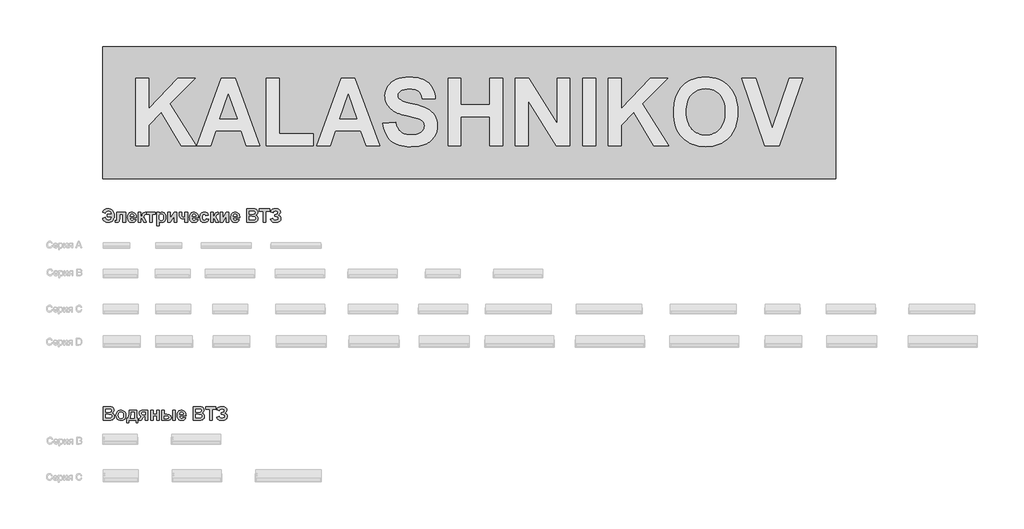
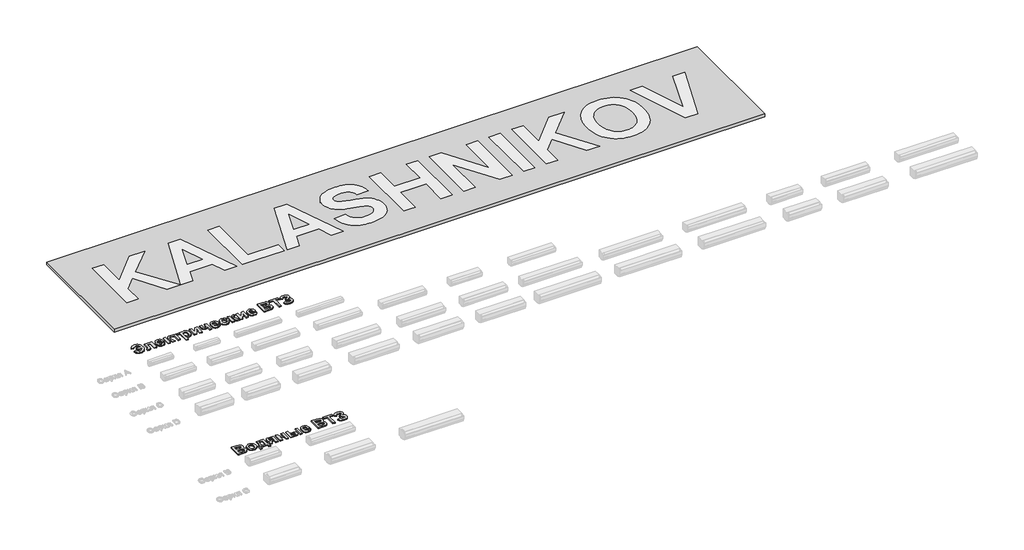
# One storey, part 7 of 8: 3 proxies.
"""IFC4 building model written with IfcOpenShell, lengths in millimetres."""

from ifc_helpers import new_model, si_unit, origin, origin_with_axes, place, context, project, spatial, polyline, outline, extrude, transform, mapped, element, save
from components import entourage_b6f5d68a

model = new_model("IFC4")

# Units and contexts
model_context = context("Model", 3, world=origin())
ifc_project = project(units=[si_unit("LENGTHUNIT", "METRE", prefix="MILLI")], contexts=[model_context])

# Site, building, storey
site = spatial("IfcSite", under=ifc_project)
building = spatial("IfcBuilding", under=site)
storey = spatial("IfcBuildingStorey", under=building, Name="Уровень 1", Elevation=0.0)

# Proxies
placement = place(None, origin())
element("IfcBuildingElementProxy", 1, Name="ИЗТТ_Текст1", ObjectType="ИЗТТ_Текст1", at=placement, inside=storey, context=model_context, shape_type="SweptSolid", body=[
    extrude(outline(polyline([(-15211.1669449, 16810.7073156), (-15075.1323582, 16810.7073156), (-15085.620888, 16851.5607085), (-15094.8600302, 16869.1501881), (-15106.762424, 16884.8481897), (-15121.1825709, 16897.7564195), (-15137.9749728, 16906.9765837), (-15157.1396296, 16912.5086822), (-15178.6765414, 16914.352715), (-15210.3445632, 16909.9118538), (-15236.5216056, 16896.5892701), (-15256.473851, 16875.9538152), (-15269.467482, 16849.5743404), (-15347.2015316, 16869.0078528), (-15339.1738209, 16894.115799), (-15327.4390665, 16916.6047757), (-15311.9972684, 16936.474783), (-15292.8484266, 16953.7258208), (-15270.2645597, 16967.6746798), (-15244.5176862, 16977.6381505), (-15215.6078061, 16983.6162329), (-15183.5349195, 16985.6089271), (-15142.1501415, 16981.9208614), (-15105.5478294, 16970.8566644), (-15073.7279833, 16952.4163361), (-15046.6906031, 16926.5998765), (-15025.1252243, 16894.8622685), (-15009.7213823, 16858.6584953), (-15000.4790771, 16817.9885568), (-14997.3983087, 16772.852453), (-15003.0917206, 16712.9071524), (-15010.2084853, 16686.3315712), (-15020.171956, 16662.0207027), (-15032.6247129, 16640.1421862), (-15047.2093362, 16620.8636612), (-15063.925826, 16604.1851275), (-15082.7741821, 16590.1065853), (-15103.7164486, 16578.925357), (-15126.7146694, 16570.9387654), (-15151.7688445, 16566.1468105), (-15178.8789738, 16564.5494922), (-15211.3994259, 16566.5738164), (-15240.6398401, 16572.646789), (-15266.6002166, 16582.76841), (-15289.2805552, 16596.9386795), (-15308.680856, 16615.1575973), (-15324.801119, 16637.4251636), (-15337.6413442, 16663.7413783), (-15347.2015316, 16694.1062414), (-15269.467482, 16720.0175912), (-15257.916182, 16682.6688096), (-15248.4872595, 16668.1695875), (-15236.6228218, 16656.4538111), (-15207.8900701, 16640.967731), (-15174.0205957, 16635.8057042), (-15155.9187091, 16637.3492514), (-15139.1642633, 16641.9798931), (-15123.7572583, 16649.6976291), (-15109.6976941, 16660.5024595), (-15097.4979777, 16674.698033), (-15087.6705163, 16692.5879982), (-15080.2153098, 16714.1723551), (-15075.1323582, 16739.4511036), (-15211.1669449, 16739.4511036), (-15211.1669449, 16810.7073156)])), origin_with_axes(), (0.0, 0.0, 1.0), 30.0),
    extrude(outline(polyline([(-14913.1864217, 16869.0078528), (-14654.0729233, 16869.0078528), (-14654.0729233, 16571.0273296), (-14731.8069729, 16571.0273296), (-14731.8069729, 16810.7073156), (-14835.4523722, 16810.7073156), (-14835.4523722, 16672.8508372), (-14838.3117302, 16628.1385763), (-14846.889804, 16599.0642199), (-14858.934533, 16581.4652513), (-14872.1938566, 16571.1791539), (-14890.2862542, 16566.2069076), (-14916.8302053, 16564.5494922), (-14965.0091214, 16569.306654), (-14965.0091214, 16624.2670562), (-14952.6607438, 16623.659759), (-14934.947907, 16622.8500293), (-14922.8652219, 16625.5322589), (-14916.5771648, 16633.5789476), (-14913.1864217, 16693.2965117), (-14913.1864217, 16869.0078528)])), origin_with_axes(), (0.0, 0.0, 1.0), 30.0),
    extrude(outline(polyline([(-14407.9150999, 16661.7170541), (-14330.1810503, 16648.7613791), (-14349.1084817, 16612.4880198), (-14361.760508, 16598.0425688), (-14376.5380747, 16586.0579369), (-14393.3715956, 16576.6479923), (-14412.1914847, 16569.9266033), (-14455.7903673, 16564.5494922), (-14490.9946305, 16567.7188247), (-14521.3025595, 16577.2268225), (-14546.7141543, 16593.0734854), (-14567.2294149, 16615.2588135), (-14579.7169648, 16636.8874525), (-14588.6366434, 16661.185669), (-14593.9884505, 16688.153463), (-14595.7723862, 16717.7908346), (-14593.4064573, 16752.7357312), (-14586.3086705, 16783.6825875), (-14574.479026, 16810.6314035), (-14557.9175235, 16833.5821792), (-14537.7375416, 16851.9149653), (-14515.0524585, 16865.0098125), (-14489.8622741, 16872.8667208), (-14462.1669886, 16875.4856902), (-14431.3909346, 16872.7971347), (-14404.0435798, 16864.7314679), (-14380.1249241, 16851.28869), (-14359.6349675, 16832.4688009), (-14343.3075276, 16808.0946722), (-14331.8764219, 16777.9891757), (-14325.3416503, 16742.1523112), (-14323.7032129, 16700.5840788), (-14518.0383367, 16700.5840788), (-14513.0534383, 16667.8406348), (-14499.7182026, 16643.2957038), (-14480.0569538, 16627.9614479), (-14456.094016, 16622.8500293), (-14439.7729021, 16625.1526981), (-14426.2352339, 16632.0607044), (-14415.5822278, 16644.0801294), (-14407.9150999, 16661.7170541)]), holes=[polyline([(-14401.4372624, 16745.928941), (-14406.1691202, 16776.6607129), (-14418.7452344, 16799.0168434), (-14437.0147603, 16812.6430757), (-14458.8268536, 16817.1851531), (-14481.8535415, 16812.4026872), (-14500.5279323, 16798.0552894), (-14512.7750937, 16775.4081623), (-14516.7225259, 16745.928941), (-14401.4372624, 16745.928941)])]), origin_with_axes(), (0.0, 0.0, 1.0), 30.0),
    extrude(outline(polyline([(-14265.4026757, 16869.0078528), (-14187.6686262, 16869.0078528), (-14187.6686262, 16745.928941), (-14171.2589481, 16750.0408496), (-14160.4920738, 16757.923062), (-14151.6989155, 16773.4724023), (-14141.2103857, 16800.5856946), (-14125.7243055, 16836.5427533), (-14108.8211984, 16856.7606913), (-14088.4767401, 16865.9460624), (-14062.6666065, 16869.0078528), (-14032.2005272, 16867.6920421), (-14031.8968785, 16817.1851531), (-14056.8466744, 16815.66691), (-14070.7639033, 16811.1121805), (-14079.6203217, 16798.5613704), (-14089.1852536, 16773.4597503), (-14105.5063675, 16739.2739752), (-14115.8873551, 16728.2730384), (-14127.7486297, 16721.3334019), (-14110.086401, 16713.5081237), (-14093.8411993, 16700.2551261), (-14079.0130244, 16681.5744093), (-14065.6018766, 16657.4659732), (-14062.5653903, 16651.6966492), (-14019.2448523, 16571.0273296), (-14106.5944418, 16571.0273296), (-14143.4371423, 16654.4294869), (-14154.0142363, 16675.2041141), (-14163.0730871, 16686.9198904), (-14173.3718365, 16692.3096536), (-14187.6686262, 16694.1062414), (-14187.6686262, 16571.0273296), (-14265.4026757, 16571.0273296), (-14265.4026757, 16869.0078528)])), origin_with_axes(), (0.0, 0.0, 1.0), 30.0),
    extrude(outline(polyline([(-14012.7670148, 16869.0078528), (-13753.6535164, 16869.0078528), (-13753.6535164, 16810.7073156), (-13844.3432408, 16810.7073156), (-13844.3432408, 16571.0273296), (-13922.0772904, 16571.0273296), (-13922.0772904, 16810.7073156), (-14012.7670148, 16810.7073156), (-14012.7670148, 16869.0078528)])), origin_with_axes(), (0.0, 0.0, 1.0), 30.0),
    extrude(outline(polyline([(-13714.7864916, 16869.0078528), (-13637.0524421, 16869.0078528), (-13637.0524421, 16826.0921796), (-13620.9843687, 16846.0570771), (-13600.1085254, 16861.8215019), (-13575.5382903, 16872.0696431), (-13548.3870419, 16875.4856902), (-13524.5727654, 16872.945796), (-13502.6246628, 16865.3261131), (-13482.5427341, 16852.6266417), (-13464.3269792, 16834.8473818), (-13449.2046448, 16812.5386965), (-13438.4029773, 16786.2509488), (-13431.9219769, 16755.9841389), (-13429.7616434, 16721.7382668), (-13431.991563, 16686.5213516), (-13438.6813219, 16655.4669531), (-13449.8309201, 16628.5750712), (-13465.4403575, 16605.845706), (-13484.2254536, 16587.7786124), (-13504.9020275, 16574.8735456), (-13527.4700794, 16567.1305055), (-13551.9296092, 16564.5494922), (-13574.9816011, 16566.9533772), (-13595.7562283, 16574.1650321), (-13615.8982542, 16587.2219233), (-13637.0524421, 16607.1615167), (-13637.0524421, 16460.9040928), (-13714.7864916, 16460.9040928), (-13714.7864916, 16869.0078528)]), holes=[polyline([(-13637.0524421, 16725.1796179), (-13632.181412, 16679.6829314), (-13626.0926243, 16662.0586588), (-13617.5683216, 16647.8504333), (-13595.9460087, 16629.1001303), (-13583.5312079, 16624.4125546), (-13570.0473109, 16622.8500293), (-13545.4644238, 16628.5813972), (-13525.360354, 16645.7755009), (-13517.5445648, 16659.0759436), (-13511.9618582, 16676.0517998), (-13507.4956929, 16721.0297533), (-13512.0883785, 16763.5405616), (-13517.8292354, 16780.089412), (-13525.8664351, 16793.5005599), (-13546.4512819, 16811.2640048), (-13571.4643378, 16817.1851531), (-13597.3124275, 16811.377873), (-13618.3780513, 16793.9560328), (-13626.5480973, 16780.9465868), (-13632.3838444, 16765.147369), (-13637.0524421, 16725.1796179)])]), origin_with_axes(), (0.0, 0.0, 1.0), 30.0),
    extrude(outline(polyline([(-13371.4611063, 16869.0078528), (-13293.7270567, 16869.0078528), (-13293.7270567, 16685.7052959), (-13183.6038199, 16869.0078528), (-13105.8697704, 16869.0078528), (-13105.8697704, 16571.0273296), (-13183.6038199, 16571.0273296), (-13183.6038199, 16754.4311027), (-13293.7270567, 16571.0273296), (-13371.4611063, 16571.0273296), (-13371.4611063, 16869.0078528)])), origin_with_axes(), (0.0, 0.0, 1.0), 30.0),
    extrude(outline(polyline([(-13028.1357209, 16869.0078528), (-12950.4016714, 16869.0078528), (-12950.4016714, 16794.7151544), (-12946.403631, 16756.7590755), (-12940.1535301, 16745.1951235), (-12929.3993077, 16735.4024552), (-12914.6850011, 16728.7221853), (-12896.5546475, 16726.4954287), (-12876.0583649, 16728.9752258), (-12853.2341095, 16736.4146173), (-12853.2341095, 16869.0078528), (-12775.5000599, 16869.0078528), (-12775.5000599, 16571.0273296), (-12853.2341095, 16571.0273296), (-12853.2341095, 16686.8186742), (-12891.4938369, 16677.7092153), (-12919.429511, 16674.672729), (-12951.8186983, 16678.6201612), (-12980.7665344, 16690.4624578), (-13003.7046581, 16708.4789432), (-13018.0647079, 16730.9489419), (-13025.6179676, 16759.7196497), (-13028.1357209, 16796.6382624), (-13028.1357209, 16869.0078528)])), origin_with_axes(), (0.0, 0.0, 1.0), 30.0),
    extrude(outline(polyline([(-12529.3422364, 16661.7170541), (-12451.6081869, 16648.7613791), (-12470.5356183, 16612.4880198), (-12483.1876445, 16598.0425688), (-12497.9652113, 16586.0579369), (-12514.7987322, 16576.6479923), (-12533.6186213, 16569.9266033), (-12577.2175039, 16564.5494922), (-12612.4217671, 16567.7188247), (-12642.7296961, 16577.2268225), (-12668.1412909, 16593.0734854), (-12688.6565515, 16615.2588135), (-12701.1441014, 16636.8874525), (-12710.06378, 16661.185669), (-12715.4155871, 16688.153463), (-12717.1995228, 16717.7908346), (-12714.8335939, 16752.7357312), (-12707.7358071, 16783.6825875), (-12695.9061625, 16810.6314035), (-12679.3446601, 16833.5821792), (-12659.1646782, 16851.9149653), (-12636.4795951, 16865.0098125), (-12611.2894107, 16872.8667208), (-12583.5941252, 16875.4856902), (-12552.8180712, 16872.7971347), (-12525.4707164, 16864.7314679), (-12501.5520607, 16851.28869), (-12481.0621041, 16832.4688009), (-12464.7346642, 16808.0946722), (-12453.3035585, 16777.9891757), (-12446.7687869, 16742.1523112), (-12445.1303495, 16700.5840788), (-12639.4654733, 16700.5840788), (-12634.4805749, 16667.8406348), (-12621.1453392, 16643.2957038), (-12601.4840903, 16627.9614479), (-12577.5211526, 16622.8500293), (-12561.2000386, 16625.1526981), (-12547.6623705, 16632.0607044), (-12537.0093644, 16644.0801294), (-12529.3422364, 16661.7170541)]), holes=[polyline([(-12522.864399, 16745.928941), (-12527.5962568, 16776.6607129), (-12540.172371, 16799.0168434), (-12558.4418969, 16812.6430757), (-12580.2539902, 16817.1851531), (-12603.2806781, 16812.4026872), (-12621.9550689, 16798.0552894), (-12634.2022303, 16775.4081623), (-12638.1496625, 16745.928941), (-12522.864399, 16745.928941)])]), origin_with_axes(), (0.0, 0.0, 1.0), 30.0),
    extrude(outline(polyline([(-12140.6719888, 16784.7959658), (-12218.4060384, 16771.8402909), (-12224.3651427, 16791.615408), (-12234.9548888, 16805.7983294), (-12249.7957156, 16814.3384472), (-12268.5080625, 16817.1851531), (-12293.1542097, 16811.845998), (-12312.2334653, 16795.8285327), (-12319.3628821, 16783.3599608), (-12324.4553227, 16767.3108655), (-12328.5292752, 16724.4711045), (-12324.2908464, 16676.9753978), (-12318.9928104, 16659.3574512), (-12311.57556, 16645.826109), (-12291.7245307, 16628.5940492), (-12266.0788734, 16622.8500293), (-12246.6580131, 16626.1269041), (-12231.1086728, 16635.9575285), (-12219.5067647, 16653.8095376), (-12211.9282009, 16681.1505664), (-12134.1941514, 16668.1948915), (-12141.3583613, 16644.1085965), (-12151.2111267, 16623.16633), (-12163.7524478, 16605.368092), (-12178.9823244, 16590.7138825), (-12196.9640168, 16579.2669617), (-12217.760785, 16571.0905898), (-12241.3726291, 16566.1847666), (-12267.799549, 16564.5494922), (-12297.8259704, 16567.1241795), (-12324.6451031, 16574.8482416), (-12348.2569472, 16587.7216783), (-12368.6615026, 16605.7444898), (-12385.1122998, 16628.3157047), (-12396.8628692, 16654.8343518), (-12403.9132108, 16685.3004311), (-12406.2633247, 16719.7139426), (-12403.9290259, 16754.5165039), (-12396.9261293, 16785.2387867), (-12385.2546351, 16811.8807911), (-12368.9145431, 16834.442517), (-12348.5890629, 16852.3989053), (-12324.9614038, 16865.2248969), (-12298.0315658, 16872.9204919), (-12267.799549, 16875.4856902), (-12221.0123558, 16869.8808426), (-12201.6231255, 16862.874783), (-12184.9034728, 16853.0662997), (-12170.600357, 16840.3921323), (-12158.4607378, 16824.7890209), (-12140.6719888, 16784.7959658)])), origin_with_axes(), (0.0, 0.0, 1.0), 30.0),
    extrude(outline(polyline([(-12075.8936142, 16869.0078528), (-11998.1595647, 16869.0078528), (-11998.1595647, 16745.928941), (-11981.7498866, 16750.0408496), (-11970.9830123, 16757.923062), (-11962.189854, 16773.4724023), (-11951.7013242, 16800.5856946), (-11936.215244, 16836.5427533), (-11919.3121369, 16856.7606913), (-11898.9676786, 16865.9460624), (-11873.157545, 16869.0078528), (-11842.6914657, 16867.6920421), (-11842.3878171, 16817.1851531), (-11867.3376129, 16815.66691), (-11881.2548418, 16811.1121805), (-11890.1112602, 16798.5613704), (-11899.6761921, 16773.4597503), (-11915.997306, 16739.2739752), (-11926.3782936, 16728.2730384), (-11938.2395682, 16721.3334019), (-11920.5773395, 16713.5081237), (-11904.3321378, 16700.2551261), (-11889.503963, 16681.5744093), (-11876.0928151, 16657.4659732), (-11873.0563288, 16651.6966492), (-11829.7357908, 16571.0273296), (-11917.0853803, 16571.0273296), (-11953.9280808, 16654.4294869), (-11964.5051748, 16675.2041141), (-11973.5640256, 16686.9198904), (-11983.862775, 16692.3096536), (-11998.1595647, 16694.1062414), (-11998.1595647, 16571.0273296), (-12075.8936142, 16571.0273296), (-12075.8936142, 16869.0078528)])), origin_with_axes(), (0.0, 0.0, 1.0), 30.0),
    extrude(outline(polyline([(-11790.868766, 16869.0078528), (-11713.1347165, 16869.0078528), (-11713.1347165, 16685.7052959), (-11603.0114797, 16869.0078528), (-11525.2774301, 16869.0078528), (-11525.2774301, 16571.0273296), (-11603.0114797, 16571.0273296), (-11603.0114797, 16754.4311027), (-11713.1347165, 16571.0273296), (-11790.868766, 16571.0273296), (-11790.868766, 16869.0078528)])), origin_with_axes(), (0.0, 0.0, 1.0), 30.0),
    extrude(outline(polyline([(-11279.1196067, 16661.7170541), (-11201.3855571, 16648.7613791), (-11220.3129885, 16612.4880198), (-11232.9650148, 16598.0425688), (-11247.7425815, 16586.0579369), (-11264.5761024, 16576.6479923), (-11283.3959915, 16569.9266033), (-11326.9948741, 16564.5494922), (-11362.1991373, 16567.7188247), (-11392.5070663, 16577.2268225), (-11417.9186611, 16593.0734854), (-11438.4339217, 16615.2588135), (-11450.9214716, 16636.8874525), (-11459.8411502, 16661.185669), (-11465.1929573, 16688.153463), (-11466.976893, 16717.7908346), (-11464.6109641, 16752.7357312), (-11457.5131773, 16783.6825875), (-11445.6835328, 16810.6314035), (-11429.1220303, 16833.5821792), (-11408.9420484, 16851.9149653), (-11386.2569653, 16865.0098125), (-11361.0667809, 16872.8667208), (-11333.3714954, 16875.4856902), (-11302.5954414, 16872.7971347), (-11275.2480866, 16864.7314679), (-11251.3294309, 16851.28869), (-11230.8394743, 16832.4688009), (-11214.5120344, 16808.0946722), (-11203.0809287, 16777.9891757), (-11196.5461571, 16742.1523112), (-11194.9077197, 16700.5840788), (-11389.2428435, 16700.5840788), (-11384.2579451, 16667.8406348), (-11370.9227094, 16643.2957038), (-11351.2614606, 16627.9614479), (-11327.2985228, 16622.8500293), (-11310.9774089, 16625.1526981), (-11297.4397407, 16632.0607044), (-11286.7867346, 16644.0801294), (-11279.1196067, 16661.7170541)]), holes=[polyline([(-11272.6417692, 16745.928941), (-11277.373627, 16776.6607129), (-11289.9497412, 16799.0168434), (-11308.2192671, 16812.6430757), (-11330.0313604, 16817.1851531), (-11353.0580483, 16812.4026872), (-11371.7324391, 16798.0552894), (-11383.9796005, 16775.4081623), (-11387.9270327, 16745.928941), (-11272.6417692, 16745.928941)])]), origin_with_axes(), (0.0, 0.0, 1.0), 30.0),
    extrude(outline(polyline([(-10981.1390835, 16979.1310896), (-10813.6262554, 16979.1310896), (-10739.4853814, 16975.0824412), (-10716.3321733, 16968.8196882), (-10695.7599785, 16958.128726), (-10678.0850978, 16943.0981187), (-10663.6238317, 16923.8164307), (-10653.9829877, 16901.1060435), (-10650.769373, 16875.7893389), (-10654.602937, 16848.2079216), (-10666.1036289, 16822.9544771), (-10684.1833745, 16801.8762013), (-10707.7540994, 16786.82029), (-10677.9459255, 16772.1945476), (-10655.9313998, 16749.9775895), (-10642.3431235, 16721.6623546), (-10637.8136981, 16688.7417822), (-10641.0652689, 16661.4007534), (-10650.8199811, 16634.8441502), (-10666.2048451, 16611.3113813), (-10686.346871, 16593.0418554), (-10711.4864472, 16580.4024811), (-10741.8639623, 16573.7601673), (-10841.6631457, 16571.0273296), (-10981.1390835, 16571.0273296), (-10981.1390835, 16979.1310896)]), holes=[polyline([(-10903.405034, 16907.8748775), (-10903.405034, 16817.1851531), (-10844.0923347, 16817.1851531), (-10778.301798, 16818.5009638), (-10757.590431, 16823.2328217), (-10741.8133542, 16832.5700171), (-10731.8309055, 16846.0570771), (-10728.5034226, 16863.2385288), (-10731.3754325, 16879.6735109), (-10739.9914624, 16892.7430541), (-10754.2502961, 16901.8904691), (-10774.0507172, 16906.5590668), (-10851.3799019, 16907.8748775), (-10903.405034, 16907.8748775)]), polyline([(-10903.405034, 16745.928941), (-10903.405034, 16642.2835417), (-10821.2174712, 16642.2835417), (-10760.2853126, 16644.7127307), (-10742.2941312, 16650.14045), (-10727.9973415, 16660.1482028), (-10718.6601461, 16674.5335567), (-10715.5477476, 16693.0940793), (-10717.9516326, 16709.1874567), (-10725.1632876, 16722.6492127), (-10736.904368, 16733.1503945), (-10752.8965292, 16740.3620495), (-10781.641933, 16744.5372182), (-10831.6427409, 16745.928941), (-10903.405034, 16745.928941)])]), origin_with_axes(), (0.0, 0.0, 1.0), 30.0),
    extrude(outline(polyline([(-10482.3455991, 16571.0273296), (-10482.3455991, 16907.8748775), (-10598.9466734, 16907.8748775), (-10598.9466734, 16979.1310896), (-10288.0104753, 16979.1310896), (-10288.0104753, 16907.8748775), (-10404.6115496, 16907.8748775), (-10404.6115496, 16571.0273296), (-10482.3455991, 16571.0273296)])), origin_with_axes(), (0.0, 0.0, 1.0), 30.0),
    extrude(outline(polyline([(-10184.3650759, 16862.5300153), (-10262.0991254, 16881.9635277), (-10253.8136297, 16906.2554182), (-10242.4188985, 16927.3083899), (-10227.9149319, 16945.1224429), (-10210.3017298, 16959.6975772), (-10189.5792922, 16971.0337928), (-10165.7476192, 16979.1310896), (-10138.8067107, 16983.9894677), (-10108.7565668, 16985.6089271), (-10073.6060748, 16983.651026), (-10043.0545943, 16977.7773228), (-10017.1021254, 16967.9878175), (-9995.748668, 16954.28251), (-9979.0764604, 16937.932929), (-9967.1677406, 16920.2106032), (-9960.0225088, 16901.1155325), (-9957.6407648, 16880.647717), (-9961.7653254, 16853.1042557), (-9974.1390071, 16828.3695443), (-9994.7618099, 16806.4435828), (-10023.6337339, 16787.3263711), (-9989.0937022, 16770.46122), (-9964.4222509, 16747.8014409), (-9949.6193801, 16719.2964257), (-9944.6850899, 16684.8955662), (-9947.2249842, 16659.2182789), (-9954.844667, 16636.1346569), (-9967.5441384, 16615.6447003), (-9985.3233983, 16597.7484091), (-10008.1634688, 16583.223883), (-10036.0453717, 16572.8492214), (-10068.9691071, 16566.6244245), (-10106.934675, 16564.5494922), (-10165.9816817, 16570.0151675), (-10190.2957132, 16576.8472617), (-10211.1367635, 16586.4121936), (-10229.0551958, 16599.7221252), (-10244.6013731, 16617.7892188), (-10257.7752954, 16640.6134742), (-10268.5769629, 16668.1948915), (-10190.8429134, 16694.1062414), (-10175.8882183, 16663.9185066), (-10156.7330505, 16646.6358387), (-10132.9978492, 16638.5132379), (-10104.3030536, 16635.8057042), (-10067.3717888, 16639.9808729), (-10042.0044761, 16652.5063789), (-10027.3154736, 16670.4216482), (-10022.4191394, 16690.7661064), (-10027.998683, 16713.160193), (-10044.7373138, 16730.7465095), (-10072.6856399, 16742.1333332), (-10111.8942693, 16745.928941), (-10132.5423762, 16745.928941), (-10132.5423762, 16804.2294782), (-10122.0158904, 16804.2294782), (-10084.8695412, 16808.2907786), (-10057.6423806, 16820.4746799), (-10040.9417059, 16839.3894592), (-10035.3748143, 16863.6433936), (-10040.0687161, 16883.3299465), (-10054.1504213, 16899.6763645), (-10076.9873288, 16910.6836274), (-10107.9468371, 16914.352715), (-10135.1170636, 16911.1137963), (-10156.9101789, 16901.3970401), (-10173.326183, 16885.2024464), (-10184.3650759, 16862.5300153)])), origin_with_axes(), (0.0, 0.0, 1.0), 30.0),
])
element("IfcBuildingElementProxy", 2, Name="ИЗТТ_Текст1", ObjectType="ИЗТТ_Текст1", at=placement, inside=storey, context=model_context, shape_type="SweptSolid", body=[
    extrude(outline(polyline([(-15334.2458566, 10979.1310896), (-15166.7330286, 10979.1310896), (-15092.5921545, 10975.0824412), (-15069.4389464, 10968.8196882), (-15048.8667517, 10958.128726), (-15031.1918709, 10943.0981187), (-15016.7306049, 10923.8164307), (-15007.0897609, 10901.1060435), (-15003.8761462, 10875.7893389), (-15007.7097102, 10848.2079216), (-15019.210402, 10822.9544771), (-15037.2901476, 10801.8762013), (-15060.8608726, 10786.82029), (-15031.0526987, 10772.1945476), (-15009.0381729, 10749.9775895), (-14995.4498967, 10721.6623546), (-14990.9204713, 10688.7417822), (-14994.172042, 10661.4007534), (-15003.9267543, 10634.8441502), (-15019.3116183, 10611.3113813), (-15039.4536441, 10593.0418554), (-15064.5932203, 10580.4024811), (-15094.9707355, 10573.7601673), (-15194.7699188, 10571.0273296), (-15334.2458566, 10571.0273296), (-15334.2458566, 10979.1310896)]), holes=[polyline([(-15256.5118071, 10907.8748775), (-15256.5118071, 10817.1851531), (-15197.1991079, 10817.1851531), (-15131.4085712, 10818.5009638), (-15110.6972041, 10823.2328217), (-15094.9201274, 10832.5700171), (-15084.9376786, 10846.0570771), (-15081.6101957, 10863.2385288), (-15084.4822057, 10879.6735109), (-15093.0982356, 10892.7430541), (-15107.3570692, 10901.8904691), (-15127.1574903, 10906.5590668), (-15204.486675, 10907.8748775), (-15256.5118071, 10907.8748775)]), polyline([(-15256.5118071, 10745.928941), (-15256.5118071, 10642.2835417), (-15174.3242444, 10642.2835417), (-15113.3920857, 10644.7127307), (-15095.4009044, 10650.14045), (-15081.1041147, 10660.1482028), (-15071.7669193, 10674.5335567), (-15068.6545208, 10693.0940793), (-15071.0584058, 10709.1874567), (-15078.2700608, 10722.6492127), (-15090.0111412, 10733.1503945), (-15106.0033024, 10740.3620495), (-15134.7487061, 10744.5372182), (-15184.749514, 10745.928941), (-15256.5118071, 10745.928941)])]), origin_with_axes(), (0.0, 0.0, 1.0), 30.0),
    extrude(outline(polyline([(-14945.575609, 10724.268672), (-14940.7804911, 10762.8193961), (-14926.3951372, 10800.1302217), (-14903.2292771, 10832.4814529), (-14872.0926404, 10856.1533941), (-14834.9209871, 10870.6526162), (-14793.6500774, 10875.4856902), (-14761.6625919, 10872.7465266), (-14732.7052667, 10864.5290355), (-14706.7781019, 10850.833217), (-14683.8810973, 10831.6590712), (-14665.1719134, 10808.2971046), (-14651.8082106, 10782.0378241), (-14643.789989, 10752.8812295), (-14641.1172484, 10720.8273209), (-14643.818456, 10688.5172088), (-14651.9220789, 10659.0980846), (-14665.4281169, 10632.5699485), (-14684.3365702, 10608.9328004), (-14707.337954, 10589.515103), (-14733.1227836, 10575.6453192), (-14761.691059, 10567.3234489), (-14793.0427801, 10564.5494922), (-14832.6815785, 10569.1674818), (-14870.4225729, 10583.0214505), (-14902.8117602, 10605.8077499), (-14926.3951372, 10637.2227312), (-14940.7804911, 10676.8488775), (-14945.575609, 10724.268672)]), holes=[polyline([(-14867.8415595, 10720.0175912), (-14862.4644484, 10678.4556848), (-14855.7430594, 10661.8024552), (-14846.3331148, 10647.9010414), (-14834.9494542, 10636.9412236), (-14822.3069169, 10629.1127823), (-14808.405503, 10624.4157176), (-14793.2452125, 10622.8500293), (-14778.091248, 10624.4157176), (-14764.2088122, 10629.1127823), (-14751.597905, 10636.9412236), (-14740.2585264, 10647.9010414), (-14730.892864, 10661.8404113), (-14724.2031051, 10678.6075092), (-14718.8512979, 10720.6248885), (-14724.2031051, 10761.7313219), (-14730.892864, 10778.2706832), (-14740.2585264, 10792.1341411), (-14751.597905, 10803.0939588), (-14764.2088122, 10810.9224001), (-14778.091248, 10815.6194649), (-14793.2452125, 10817.1851531), (-14808.405503, 10815.6194649), (-14822.3069169, 10810.9224001), (-14834.9494542, 10803.0939588), (-14846.3331148, 10792.1341411), (-14855.7430594, 10778.2327272), (-14862.4644484, 10761.5794976), (-14867.8415595, 10720.0175912)])]), origin_with_axes(), (0.0, 0.0, 1.0), 30.0),
    extrude(outline(polyline([(-14336.6588878, 10571.0273296), (-14563.3831989, 10571.0273296), (-14563.3831989, 10493.2932801), (-14621.683736, 10493.2932801), (-14621.683736, 10629.3278668), (-14589.2945487, 10629.3278668), (-14572.2775734, 10658.8703481), (-14558.4742127, 10701.3432004), (-14548.7448045, 10767.7283823), (-14543.9496865, 10869.0078528), (-14310.747538, 10869.0078528), (-14310.747538, 10629.3278668), (-14278.3583507, 10629.3278668), (-14278.3583507, 10493.2932801), (-14336.6588878, 10493.2932801), (-14336.6588878, 10571.0273296)]), holes=[polyline([(-14388.4815875, 10629.3278668), (-14388.4815875, 10810.7073156), (-14479.1713119, 10810.7073156), (-14482.6759232, 10749.5727246), (-14489.2423248, 10698.9646195), (-14498.8705169, 10658.8830002), (-14511.5604992, 10629.3278668), (-14388.4815875, 10629.3278668)])]), origin_with_axes(), (0.0, 0.0, 1.0), 30.0),
    extrude(outline(polyline([(-13973.89999, 10869.0078528), (-13973.89999, 10571.0273296), (-14051.6340396, 10571.0273296), (-14051.6340396, 10687.6284039), (-14058.9216067, 10687.6284039), (-14080.8602203, 10686.0722047), (-14096.0679559, 10681.403607), (-14108.5681579, 10671.7248069), (-14122.3841706, 10655.1380004), (-14127.1413325, 10649.5711088), (-14178.7615997, 10571.0273296), (-14271.8805132, 10571.0273296), (-14215.3006516, 10652.5063789), (-14193.1089975, 10680.5685732), (-14173.0934919, 10693.4989441), (-14202.5094531, 10701.0268997), (-14225.7765294, 10719.5621183), (-14240.9210049, 10746.9284511), (-14245.9691634, 10780.9497498), (-14242.5657683, 10808.8095117), (-14232.3555831, 10832.2663684), (-14216.5025941, 10850.1436816), (-14196.1707879, 10861.2648127), (-14168.0832895, 10867.0720928), (-14128.9632242, 10869.0078528), (-13973.89999, 10869.0078528)]), holes=[polyline([(-14051.6340396, 10817.1851531), (-14109.9345767, 10817.1851531), (-14137.3388656, 10814.9457445), (-14155.1782227, 10808.2275185), (-14164.9708911, 10796.2966577), (-14168.2351138, 10778.4193446), (-14164.5407222, 10760.5799875), (-14153.4575471, 10748.5605625), (-14133.9481226, 10741.7284683), (-14104.9749824, 10739.4511036), (-14051.6340396, 10739.4511036), (-14051.6340396, 10817.1851531)])]), origin_with_axes(), (0.0, 0.0, 1.0), 30.0),
    extrude(outline(polyline([(-13896.1659405, 10869.0078528), (-13818.431891, 10869.0078528), (-13818.431891, 10758.884616), (-13708.3086542, 10758.884616), (-13708.3086542, 10869.0078528), (-13630.5746047, 10869.0078528), (-13630.5746047, 10571.0273296), (-13708.3086542, 10571.0273296), (-13708.3086542, 10700.5840788), (-13818.431891, 10700.5840788), (-13818.431891, 10571.0273296), (-13896.1659405, 10571.0273296), (-13896.1659405, 10869.0078528)])), origin_with_axes(), (0.0, 0.0, 1.0), 30.0),
    extrude(outline(polyline([(-13228.9486821, 10869.0078528), (-13151.2146326, 10869.0078528), (-13151.2146326, 10571.0273296), (-13228.9486821, 10571.0273296), (-13228.9486821, 10869.0078528)])), origin_with_axes(), (0.0, 0.0, 1.0), 30.0),
    extrude(outline(polyline([(-13552.8405551, 10869.0078528), (-13475.1065056, 10869.0078528), (-13475.1065056, 10745.928941), (-13398.9919155, 10745.928941), (-13359.4669853, 10744.2715256), (-13330.5697573, 10739.2992793), (-13308.79562, 10728.7727934), (-13290.6399623, 10710.4526593), (-13278.3801488, 10686.249333), (-13274.2935444, 10658.0732705), (-13276.0932951, 10637.7129972), (-13281.4925473, 10620.0539315), (-13290.491301, 10605.0960734), (-13303.0895562, 10592.8394229), (-13319.2873128, 10583.2966321), (-13339.084571, 10576.480353), (-13389.4775917, 10571.0273296), (-13552.8405551, 10571.0273296), (-13552.8405551, 10869.0078528)]), holes=[polyline([(-13475.1065056, 10622.8500293), (-13404.4575908, 10622.8500293), (-13380.6970854, 10624.9629177), (-13364.4771877, 10631.3015829), (-13355.1399923, 10642.3974099), (-13352.0275939, 10658.781784), (-13356.0509382, 10675.8493674), (-13368.1209713, 10686.5656337), (-13390.6162741, 10692.2210894), (-13425.9154274, 10694.1062414), (-13475.1065056, 10694.1062414), (-13475.1065056, 10622.8500293)])]), origin_with_axes(), (0.0, 0.0, 1.0), 30.0),
    extrude(outline(polyline([(-12905.0568091, 10661.7170541), (-12827.3227596, 10648.7613791), (-12846.2501909, 10612.4880198), (-12858.9022172, 10598.0425688), (-12873.6797839, 10586.0579369), (-12890.5133049, 10576.6479923), (-12909.333194, 10569.9266033), (-12952.9320766, 10564.5494922), (-12988.1363398, 10567.7188247), (-13018.4442687, 10577.2268225), (-13043.8558635, 10593.0734854), (-13064.3711242, 10615.2588135), (-13076.8586741, 10636.8874525), (-13085.7783526, 10661.185669), (-13091.1301598, 10688.153463), (-13092.9140955, 10717.7908346), (-13090.5481666, 10752.7357312), (-13083.4503798, 10783.6825875), (-13071.6207352, 10810.6314035), (-13055.0592328, 10833.5821792), (-13034.8792509, 10851.9149653), (-13012.1941677, 10865.0098125), (-12987.0039834, 10872.8667208), (-12959.3086979, 10875.4856902), (-12928.5326439, 10872.7971347), (-12901.1852891, 10864.7314679), (-12877.2666334, 10851.28869), (-12856.7766768, 10832.4688009), (-12840.4492369, 10808.0946722), (-12829.0181311, 10777.9891757), (-12822.4833596, 10742.1523112), (-12820.8449222, 10700.5840788), (-13015.180046, 10700.5840788), (-13010.1951476, 10667.8406348), (-12996.8599119, 10643.2957038), (-12977.198663, 10627.9614479), (-12953.2357252, 10622.8500293), (-12936.9146113, 10625.1526981), (-12923.3769432, 10632.0607044), (-12912.7239371, 10644.0801294), (-12905.0568091, 10661.7170541)]), holes=[polyline([(-12898.5789717, 10745.928941), (-12903.3108295, 10776.6607129), (-12915.8869436, 10799.0168434), (-12934.1564696, 10812.6430757), (-12955.9685629, 10817.1851531), (-12978.9952508, 10812.4026872), (-12997.6696416, 10798.0552894), (-13009.916803, 10775.4081623), (-13013.8642352, 10745.928941), (-12898.5789717, 10745.928941)])]), origin_with_axes(), (0.0, 0.0, 1.0), 30.0),
    extrude(outline(polyline([(-12607.076286, 10979.1310896), (-12439.5634579, 10979.1310896), (-12365.4225838, 10975.0824412), (-12342.2693757, 10968.8196882), (-12321.697181, 10958.128726), (-12304.0223003, 10943.0981187), (-12289.5610342, 10923.8164307), (-12279.9201902, 10901.1060435), (-12276.7065755, 10875.7893389), (-12280.5401395, 10848.2079216), (-12292.0408314, 10822.9544771), (-12310.1205769, 10801.8762013), (-12333.6913019, 10786.82029), (-12303.883128, 10772.1945476), (-12281.8686022, 10749.9775895), (-12268.280326, 10721.6623546), (-12263.7509006, 10688.7417822), (-12267.0024713, 10661.4007534), (-12276.7571836, 10634.8441502), (-12292.1420476, 10611.3113813), (-12312.2840734, 10593.0418554), (-12337.4236497, 10580.4024811), (-12367.8011648, 10573.7601673), (-12467.6003482, 10571.0273296), (-12607.076286, 10571.0273296), (-12607.076286, 10979.1310896)]), holes=[polyline([(-12529.3422364, 10745.928941), (-12529.3422364, 10642.2835417), (-12447.1546737, 10642.2835417), (-12386.2225151, 10644.7127307), (-12368.2313337, 10650.14045), (-12353.934544, 10660.1482028), (-12344.5973486, 10674.5335567), (-12341.4849501, 10693.0940793), (-12343.8888351, 10709.1874567), (-12351.1004901, 10722.6492127), (-12362.8415705, 10733.1503945), (-12378.8337317, 10740.3620495), (-12407.5791354, 10744.5372182), (-12457.5799433, 10745.928941), (-12529.3422364, 10745.928941)]), polyline([(-12529.3422364, 10907.8748775), (-12529.3422364, 10817.1851531), (-12470.0295372, 10817.1851531), (-12404.2390005, 10818.5009638), (-12383.5276335, 10823.2328217), (-12367.7505567, 10832.5700171), (-12357.7681079, 10846.0570771), (-12354.440625, 10863.2385288), (-12357.312635, 10879.6735109), (-12365.9286649, 10892.7430541), (-12380.1874985, 10901.8904691), (-12399.9879197, 10906.5590668), (-12477.3171043, 10907.8748775), (-12529.3422364, 10907.8748775)])]), origin_with_axes(), (0.0, 0.0, 1.0), 30.0),
    extrude(outline(polyline([(-12108.2828015, 10571.0273296), (-12108.2828015, 10907.8748775), (-12224.8838758, 10907.8748775), (-12224.8838758, 10979.1310896), (-11913.9476777, 10979.1310896), (-11913.9476777, 10907.8748775), (-12030.548752, 10907.8748775), (-12030.548752, 10571.0273296), (-12108.2828015, 10571.0273296)])), origin_with_axes(), (0.0, 0.0, 1.0), 30.0),
    extrude(outline(polyline([(-11810.3022784, 10862.5300153), (-11888.0363279, 10881.9635277), (-11879.7508322, 10906.2554182), (-11868.356101, 10927.3083899), (-11853.8521344, 10945.1224429), (-11836.2389323, 10959.6975772), (-11815.5164947, 10971.0337928), (-11791.6848217, 10979.1310896), (-11764.7439132, 10983.9894677), (-11734.6937693, 10985.6089271), (-11699.5432772, 10983.651026), (-11668.9917968, 10977.7773228), (-11643.0393278, 10967.9878175), (-11621.6858705, 10954.28251), (-11605.0136628, 10937.932929), (-11593.1049431, 10920.2106032), (-11585.9597112, 10901.1155325), (-11583.5779673, 10880.647717), (-11587.7025279, 10853.1042557), (-11600.0762096, 10828.3695443), (-11620.6990124, 10806.4435828), (-11649.5709364, 10787.3263711), (-11615.0309046, 10770.46122), (-11590.3594534, 10747.8014409), (-11575.5565826, 10719.2964257), (-11570.6222924, 10684.8955662), (-11573.1621866, 10659.2182789), (-11580.7818695, 10636.1346569), (-11593.4813409, 10615.6447003), (-11611.2606008, 10597.7484091), (-11634.1006713, 10583.223883), (-11661.9825742, 10572.8492214), (-11694.9063096, 10566.6244245), (-11732.8718775, 10564.5494922), (-11791.9188842, 10570.0151675), (-11816.2329157, 10576.8472617), (-11837.073966, 10586.4121936), (-11854.9923982, 10599.7221252), (-11870.5385755, 10617.7892188), (-11883.7124979, 10640.6134742), (-11894.5141654, 10668.1948915), (-11816.7801158, 10694.1062414), (-11801.8254208, 10663.9185066), (-11782.670253, 10646.6358387), (-11758.9350516, 10638.5132379), (-11730.240256, 10635.8057042), (-11693.3089913, 10639.9808729), (-11667.9416786, 10652.5063789), (-11653.2526761, 10670.4216482), (-11648.3563419, 10690.7661064), (-11653.9358855, 10713.160193), (-11670.6745163, 10730.7465095), (-11698.6228423, 10742.1333332), (-11737.8314718, 10745.928941), (-11758.4795787, 10745.928941), (-11758.4795787, 10804.2294782), (-11747.9530928, 10804.2294782), (-11710.8067436, 10808.2907786), (-11683.5795831, 10820.4746799), (-11666.8789084, 10839.3894592), (-11661.3120168, 10863.6433936), (-11666.0059186, 10883.3299465), (-11680.0876238, 10899.6763645), (-11702.9245313, 10910.6836274), (-11733.8840396, 10914.352715), (-11761.0542661, 10911.1137963), (-11782.8473813, 10901.3970401), (-11799.2633854, 10885.2024464), (-11810.3022784, 10862.5300153)])), origin_with_axes(), (0.0, 0.0, 1.0), 30.0),
])
entourage_shape = entourage_b6f5d68a(model_context)
element("IfcBuildingElementProxy", 3, Name="ИЗТТ_Логотип : ИЗТТ_Логотип", ObjectType="ИЗТТ_Логотип : ИЗТТ_Логотип", at=placement, inside=storey, context=model_context, shape_type="MappedRepresentation", body=[
    mapped(entourage_shape, transform((-2100.0, 0.0, 0.0), x_axis=(1.0, 0.0, 0.0), y_axis=(0.0, 1.0, 0.0), z_axis=(0.0, 0.0, 1.0))),
])

save(model, "model.ifc")
